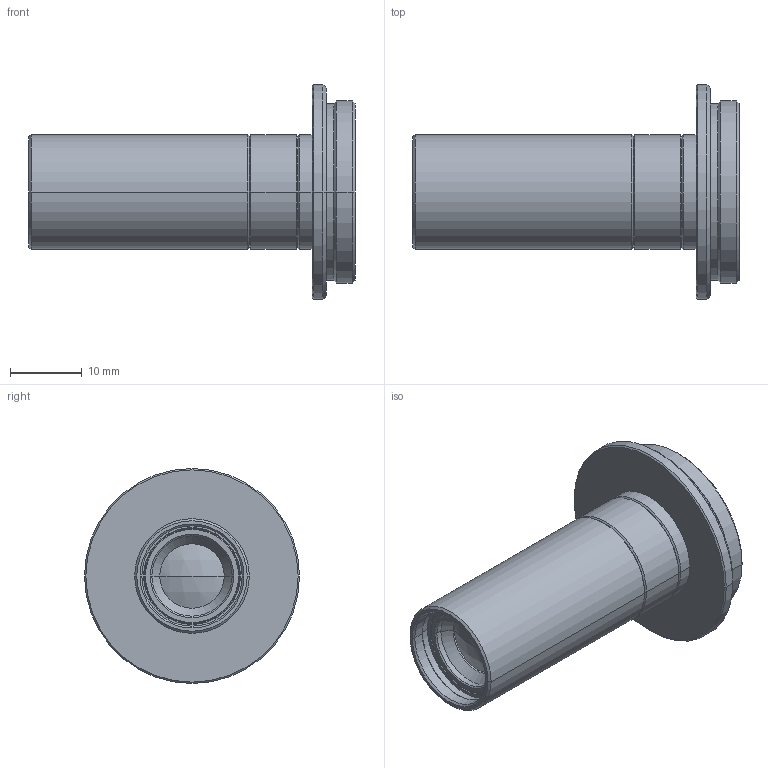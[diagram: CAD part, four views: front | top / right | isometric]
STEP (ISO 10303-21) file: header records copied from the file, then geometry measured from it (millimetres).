
FILE_DESCRIPTION (( 'STEP AP214' ), '1' );
FILE_NAME ('VS-MC05-90.STEP', '2019-01-15T08:30:45', ( '' ), ( '' ), 'SwSTEP 2.0', 'SolidWorks 2018', '' );
FILE_SCHEMA (( 'AUTOMOTIVE_DESIGN' ));
Length unit declared in the file: millimetre
Products named in the file (1): VS-MC05-90
Bounding box: 45.5 x 30 x 30 mm (x, y, z)
Volume: 9519.2 mm3; surface area: 4303.1 mm2
Topology: 1 solids, 1 shells, 63 faces, 124 edges, 69 vertices
Faces by surface type: cone 32, cylinder 22, plane 7, sphere 2
Entity records: 1634 total; most frequent: DIRECTION 322, CARTESIAN_POINT 257, ORIENTED_EDGE 248, AXIS2_PLACEMENT_3D 134, EDGE_CURVE 124, CIRCLE 70, VERTEX_POINT 69, EDGE_LOOP 69
